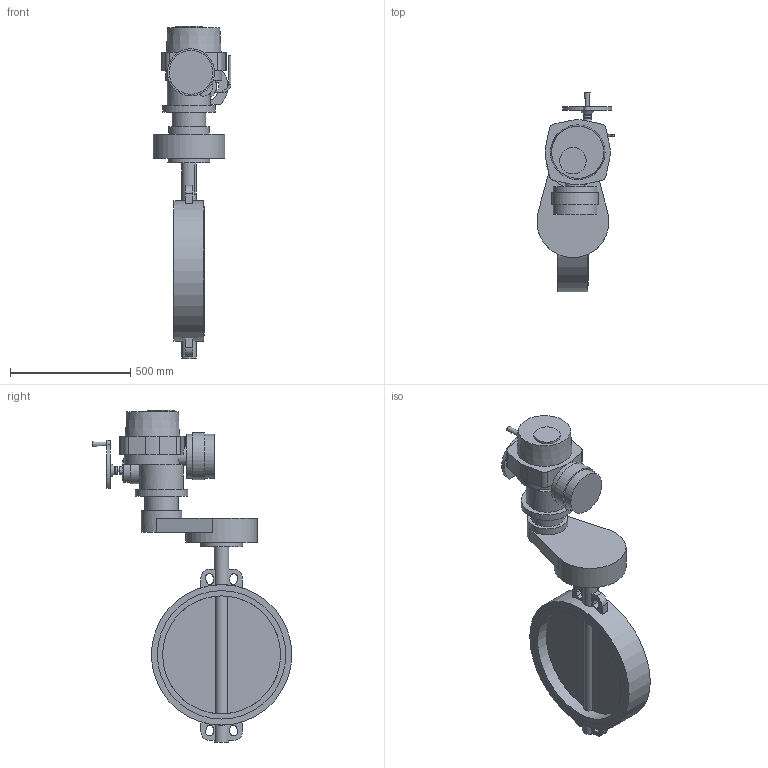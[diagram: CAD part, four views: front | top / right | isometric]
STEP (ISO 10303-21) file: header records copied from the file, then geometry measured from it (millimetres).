
FILE_DESCRIPTION(('STEP AP203'), '1');
FILE_NAME('Çàòâîð 017W.Z(÷óãóí) DN500+ÝÏ QT.A300', '', ('UNSPECIFIED'), ('UNSPECIFIED'), 'ASCON STEP Converter 1.6', 'ASCON Math Kernel', '');
FILE_SCHEMA(('CONFIG_CONTROL_DESIGN'));
Length unit declared in the file: millimetre
Bounding box: 324.45 x 831.5 x 1383 mm (x, y, z)
Volume: 46220878.6 mm3; surface area: 2020907.4 mm2
Topology: 1 solids, 1 shells, 874 faces, 2423 edges, 1610 vertices
Faces by surface type: cylinder 624, plane 246, cone 3, torus 1
Full cylindrical faces by diameter (mm): 10 x2, 14 x12, 16 x1, 17.5 x4, 18 x4, 32 x2, 35 x1, 60 x2, 80 x2, 100 x1, 110 x1, 140 x1, 170 x1, 175 x1, 180 x1, 183 x2, 196 x1, 220 x1, 300 x1, 491.6 x2, 535 x2, 585 x1
Entity records: 36549 total; most frequent: CARTESIAN_POINT 6049, DIRECTION 5398, ORIENTED_EDGE 4746, EDGE_CURVE 2373, AXIS2_PLACEMENT_3D 2170, VERTEX_POINT 1610, CIRCLE 1295, LINE 1058
